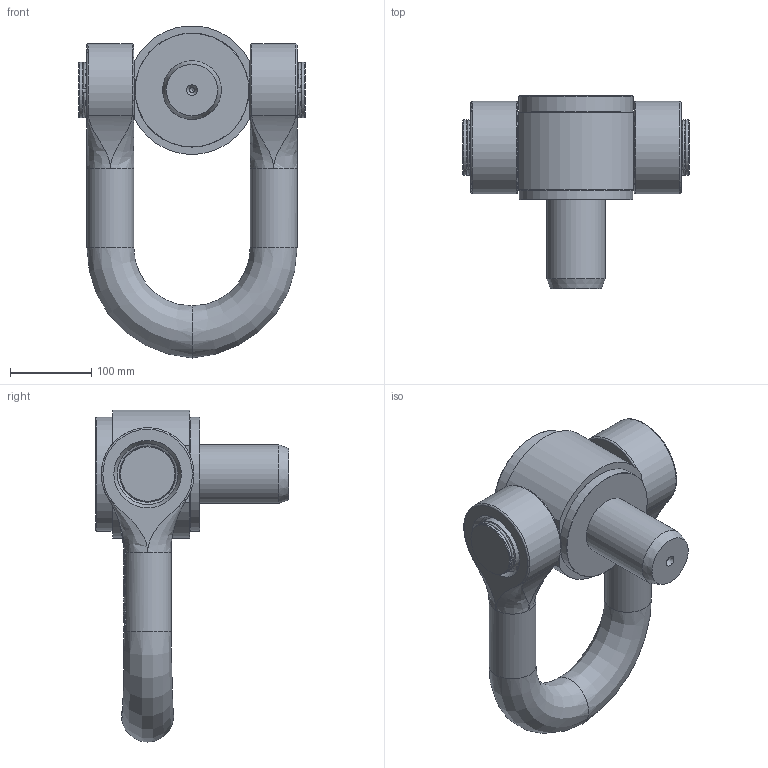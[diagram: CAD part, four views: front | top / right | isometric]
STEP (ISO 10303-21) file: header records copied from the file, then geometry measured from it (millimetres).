
FILE_DESCRIPTION(/* description */ (''),/* implementation_level */ '2;1');
FILE_NAME(/* name */ 'W:\CODIPRO\DOCUMENTS\Plans A NE PAS DIFFUSER !!!\Fichiers STEP (3D)\Gamme 2018\Produits GRADUP\MEGA DSS + UP\MEGA DSS + M72x4 UP.stp',/* time_stamp */ '2023-05-30T13:01:08+02:00',/* author */ ('mmagerotte'),/* organization */ (''),/* preprocessor_version */ 'ST-DEVELOPER v17',/* originating_system */ 'Autodesk Inventor 2019',/* authorisation */ '');
FILE_SCHEMA (('AUTOMOTIVE_DESIGN { 1 0 10303 214 3 1 1 }'));
Length unit declared in the file: millimetre
Products named in the file (7): MEGA DSS +  M72x4 UP; DSS_N5X110; DSM_N5X110; DSM_N5; DIN 7993 - A 65; DSE_M72; DSA_M72X4X217_UP+
Assembly tree (7 placements, depth 3):
  MEGA DSS +  M72x4 UP
    DSS_N5X110
      DSM_N5X110
      DSM_N5
      DIN 7993 - A 65  x2
    DSE_M72
    DSA_M72X4X217_UP+
Bounding box: 278 x 238 x 407.71 mm (x, y, z)
Volume: 5606659.4 mm3; surface area: 482229.1 mm2
Topology: 6 solids, 6 shells, 830 faces, 2309 edges, 1536 vertices
Faces by surface type: plane 437, bspline 273, cylinder 79, cone 27, torus 14
Full cylindrical faces by diameter (mm): 6.3 x1, 57.5 x2, 64 x1, 68 x4, 69.2 x2, 72 x2, 78.5 x1, 110 x4, 140 x2
Entity records: 32655 total; most frequent: CARTESIAN_POINT 13020, ORIENTED_EDGE 4606, DIRECTION 2995, EDGE_CURVE 2303, VERTEX_POINT 1532, LINE 1281, VECTOR 1281, EDGE_LOOP 881
